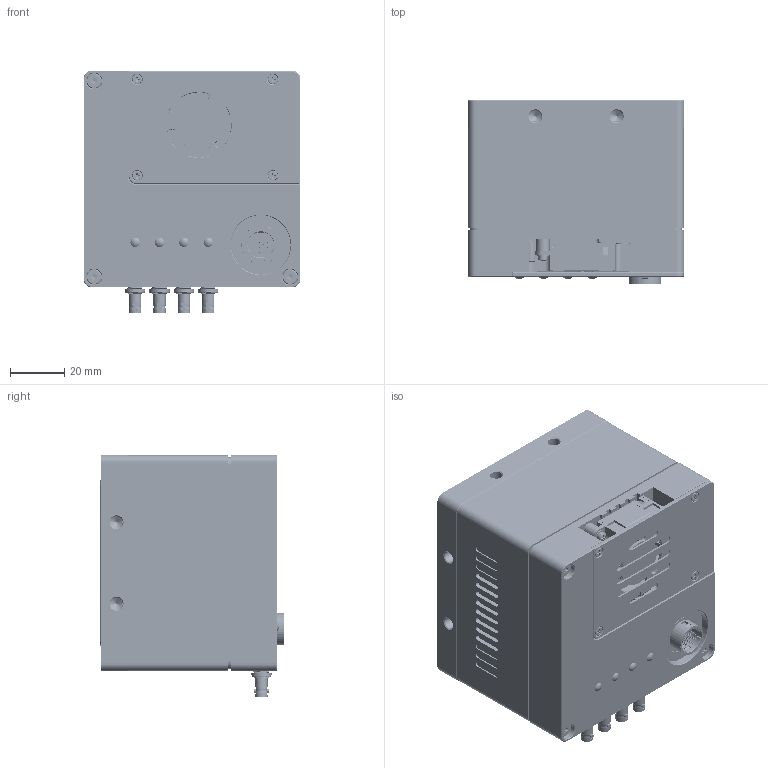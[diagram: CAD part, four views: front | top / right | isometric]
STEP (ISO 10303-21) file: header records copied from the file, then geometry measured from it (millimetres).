
FILE_DESCRIPTION((''),'2;1');
FILE_NAME('DH3-3449-6002_1','2023-12-14T15:43:54',('309376'),(''),'CREO PARAMETRIC BY PTC INC, 2020184','CREO PARAMETRIC BY PTC INC, 2020184','');
FILE_SCHEMA(('CONFIG_CONTROL_DESIGN'));
Products named in the file (1): DH3-3449-6002_1
Bounding box: 80 x 67.75 x 89.6 mm (x, y, z)
Volume: 365966.4 mm3; surface area: 76426.5 mm2
Topology: 6 solids, 171 shells, 3899 faces, 10968 edges, 7334 vertices
Faces by surface type: plane 1674, cylinder 1382, cone 606, bspline 125, torus 100, sphere 12
Entity records: 144962 total; most frequent: CARTESIAN_POINT 44180, DIRECTION 21072, ORIENTED_EDGE 20900, EDGE_CURVE 10838, AXIS2_PLACEMENT_3D 7962, VERTEX_POINT 7372, VECTOR 5148, LINE 5148
